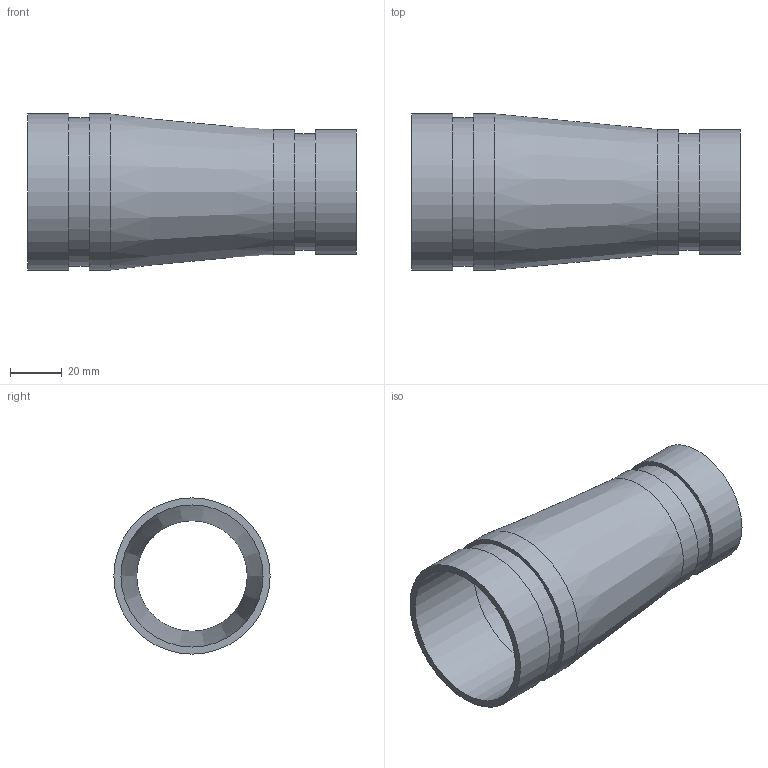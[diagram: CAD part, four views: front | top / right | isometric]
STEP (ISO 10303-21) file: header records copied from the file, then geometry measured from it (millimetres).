
FILE_DESCRIPTION(/* description */ ('VIC REDUCER CONCENTRIC No 450-SS','CAx-IF Rec.Pracs.---Representation and Presentation of Product Manufacturing Information (PMI)---4.0---2014-10-13'),/* implementation_level */ '2;1');
FILE_NAME(/* name */ 'C:\Users\kkamble\AppData\Roaming\Autodesk\ApplicationPlugins\Back Up\Victaulic_SS-OGS_Reducer Concentric_Sched 10S_No 450 SS (OGS)\Victaulic_SS-OGS_Reducer Concentric_Sched 10S_No 450 SS (OGS)_02.0x01.5 (50x40).stp',/* time_stamp */ '2020-09-08T12:32:10+05:00',/* author */ ('CORINNE GRAY'),/* organization */ ('Victaulic'),/* preprocessor_version */ 'ST-DEVELOPER v17.2',/* originating_system */ 'Autodesk Inventor 2019',/* authorisation */ '');
FILE_SCHEMA (('AP242_MANAGED_MODEL_BASED_3D_ENGINEERING_MIM_LF { 1 0 10303 442 1 1 4 }'));
Length unit declared in the file: inch
Products named in the file (1): 450 SS-02.0x01.5
Bounding box: 127 x 60.33 x 60.33 mm (x, y, z)
Volume: 52560 mm3; surface area: 42999.5 mm2
Topology: 1 solids, 1 shells, 16 faces, 42 edges, 32 vertices
Faces by surface type: cylinder 8, plane 6, cone 2
Full cylindrical faces by diameter (mm): 42.672 x1, 45.085 x1, 48.26 x2, 54.864 x1, 57.15 x1, 60.325 x2
Entity records: 686 total; most frequent: DIRECTION 134, CARTESIAN_POINT 108, ORIENTED_EDGE 84, AXIS2_PLACEMENT_3D 62, EDGE_CURVE 42, CIRCLE 32, VERTEX_POINT 32, EDGE_LOOP 22
